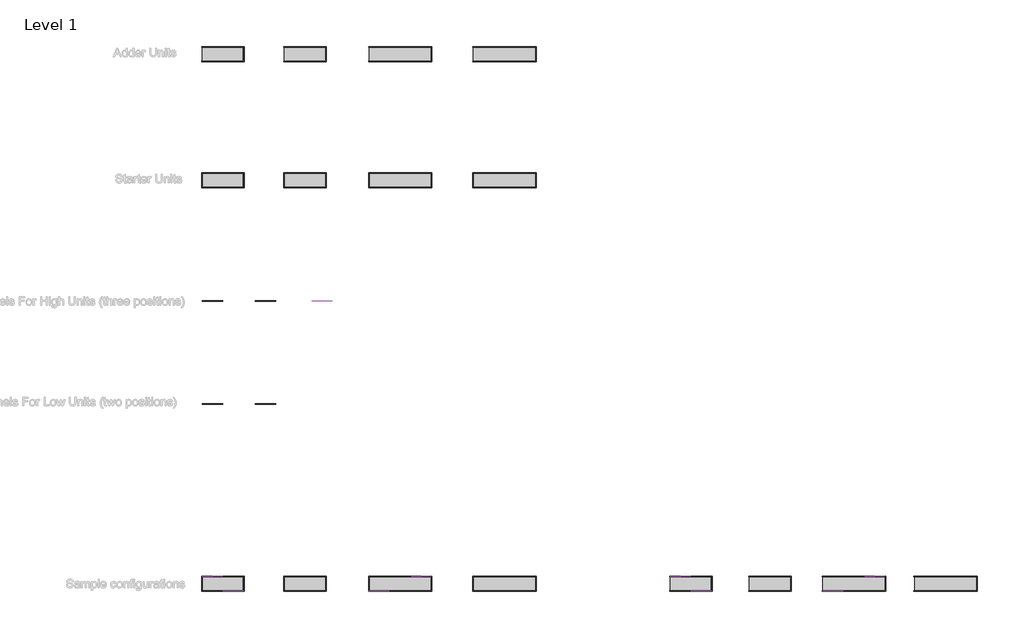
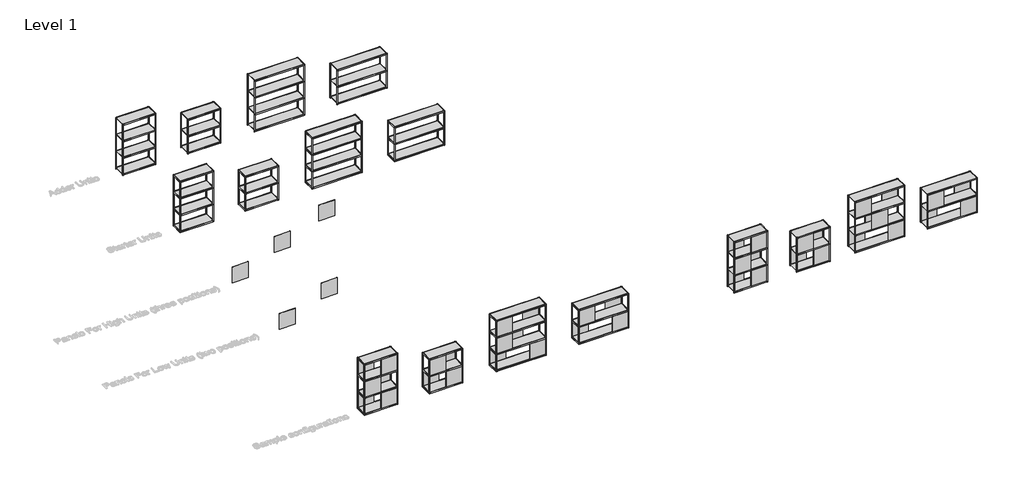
# One storey, part 1 of 5: 61 furniture elements.
"""IFC4 building model written with IfcOpenShell, lengths in millimetres."""

from ifc_helpers import new_model, si_unit, origin, place, context, project, spatial, transform, mapped, element, save
from components import furniture_18f51ebe, furniture_b5f793eb, furniture_124d8ea0, furniture_46b29162, loft_wall_shift_panel_high_panel_bottom_7a51d23b, loft_wall_shift_panel_high_panel_middle_ab29b295, loft_wall_shift_panel_high_panel_top_c6bffc80, loft_wall_shift_panel_low_panel_bottom_8d38475a, loft_wall_shift_panel_low_panel_top_9cc669cb, loft_wall_shift_shelving_starter_shift_4_fh_6d0d693a, loft_wall_shift_shelving_starter_shift_4_lh_eeeddb5a, loft_wall_shift_shelving_starter_shift_6_fh_b3093a74, loft_wall_shift_shelving_starter_shift_6_lh_b1b69f6e

model = new_model("IFC4")

# Units and contexts
model_context = context("Model", 3, world=origin())
ifc_project = project(units=[si_unit("LENGTHUNIT", "METRE", prefix="MILLI")], contexts=[model_context])

# Site, building, storey
site = spatial("IfcSite", under=ifc_project)
building = spatial("IfcBuilding", under=site)
storey = spatial("IfcBuildingStorey", under=building, Name="Level 1", Elevation=0.0)

# Furniture
placement = place(None, origin())
furniture_shape = furniture_18f51ebe(model_context)
element("IfcFurniture", 1, ObjectType="Loft_Wall-Shift-Shelving-Adder : SHIFT-4A-LH", at=placement, inside=storey, context=model_context, shape_type="MappedRepresentation", body=[
    mapped(furniture_shape, transform((2613.5631912, -1800.076662, 0.0), x_axis=(1.0, 0.0, 0.0), y_axis=(0.0, 1.0, 0.0), z_axis=(0.0, 0.0, 1.0))),
])
element("IfcFurniture", 2, ObjectType="Loft_Wall-Shift-Shelving-Adder : SHIFT-4A-LH", at=placement, inside=storey, context=model_context, shape_type="MappedRepresentation", body=[
    mapped(furniture_shape, transform((-10777.6518982, 13453.7977648, 0.0), x_axis=(1.0, 0.0, 0.0), y_axis=(0.0, 1.0, 0.0), z_axis=(0.0, 0.0, 1.0))),
])
furniture_2_shape = furniture_b5f793eb(model_context)
element("IfcFurniture", 3, ObjectType="Loft_Wall-Shift-Shelving-Adder : SHIFT-4A-FH", at=placement, inside=storey, context=model_context, shape_type="MappedRepresentation", body=[
    mapped(furniture_2_shape, transform((336.145659, -1800.076662, 0.0), x_axis=(1.0, 0.0, 0.0), y_axis=(0.0, 1.0, 0.0), z_axis=(0.0, 0.0, 1.0))),
])
element("IfcFurniture", 4, ObjectType="Loft_Wall-Shift-Shelving-Adder : SHIFT-4A-FH", at=placement, inside=storey, context=model_context, shape_type="MappedRepresentation", body=[
    mapped(furniture_2_shape, transform((-13146.1661317, 13453.7977648, 0.0), x_axis=(1.0, 0.0, 0.0), y_axis=(0.0, 1.0, 0.0), z_axis=(0.0, 0.0, 1.0))),
])
furniture_3_shape = furniture_124d8ea0(model_context)
element("IfcFurniture", 5, ObjectType="Loft_Wall-Shift-Shelving-Adder : SHIFT-6A-FH", at=placement, inside=storey, context=model_context, shape_type="MappedRepresentation", body=[
    mapped(furniture_3_shape, transform((4731.5614962, -1800.076662, 0.0), x_axis=(1.0, 0.0, 0.0), y_axis=(0.0, 1.0, 0.0), z_axis=(0.0, 0.0, 1.0))),
])
element("IfcFurniture", 6, ObjectType="Loft_Wall-Shift-Shelving-Adder : SHIFT-6A-FH", at=placement, inside=storey, context=model_context, shape_type="MappedRepresentation", body=[
    mapped(furniture_3_shape, transform((-8340.8151387, 13453.7977648, 0.0), x_axis=(1.0, 0.0, 0.0), y_axis=(0.0, 1.0, 0.0), z_axis=(0.0, 0.0, 1.0))),
])
furniture_4_shape = furniture_46b29162(model_context)
element("IfcFurniture", 7, ObjectType="Loft_Wall-Shift-Shelving-Adder : SHIFT-6A-LH", at=placement, inside=storey, context=model_context, shape_type="MappedRepresentation", body=[
    mapped(furniture_4_shape, transform((7373.3658336, -1800.076662, 0.0), x_axis=(1.0, 0.0, 0.0), y_axis=(0.0, 1.0, 0.0), z_axis=(0.0, 0.0, 1.0))),
])
element("IfcFurniture", 8, ObjectType="Loft_Wall-Shift-Shelving-Adder : SHIFT-6A-LH", at=placement, inside=storey, context=model_context, shape_type="MappedRepresentation", body=[
    mapped(furniture_4_shape, transform((-5334.6239962, 13453.7977648, 0.0), x_axis=(1.0, 0.0, 0.0), y_axis=(0.0, 1.0, 0.0), z_axis=(0.0, 0.0, 1.0))),
])
loft_wall_shift_panel_high_panel_bottom_shape = loft_wall_shift_panel_high_panel_bottom_7a51d23b(model_context)
element("IfcFurniture", 9, ObjectType="Loft_Wall-Shift-Panel_High : Panel Bottom", at=placement, inside=storey, context=model_context, shape_type="MappedRepresentation", body=[
    mapped(loft_wall_shift_panel_high_panel_bottom_shape, transform((-13443.8223817, 6341.4467411, 0.0), x_axis=(1.0, 0.0, 0.0), y_axis=(0.0, 1.0, 0.0), z_axis=(0.0, 0.0, 1.0))),
])
element("IfcFurniture", 10, ObjectType="Loft_Wall-Shift-Panel_High : Panel Bottom", at=placement, inside=storey, context=model_context, shape_type="MappedRepresentation", body=[
    mapped(loft_wall_shift_panel_high_panel_bottom_shape, transform((-13443.8223817, -1588.542287, 0.0), x_axis=(1.0, 0.0, 0.0), y_axis=(0.0, 1.0, 0.0), z_axis=(0.0, 0.0, 1.0))),
])
element("IfcFurniture", 11, ObjectType="Loft_Wall-Shift-Panel_High : Panel Bottom", at=placement, inside=storey, context=model_context, shape_type="MappedRepresentation", body=[
    mapped(loft_wall_shift_panel_high_panel_bottom_shape, transform((-12848.5098817, -2011.452287, 0.0), x_axis=(1.0, 0.0, 0.0), y_axis=(0.0, 1.0, 0.0), z_axis=(0.0, 0.0, 1.0))),
])
element("IfcFurniture", 12, ObjectType="Loft_Wall-Shift-Panel_High : Panel Bottom", at=placement, inside=storey, context=model_context, shape_type="MappedRepresentation", body=[
    mapped(loft_wall_shift_panel_high_panel_bottom_shape, transform((-8638.4713887, -1588.542287, 0.0), x_axis=(1.0, 0.0, 0.0), y_axis=(0.0, 1.0, 0.0), z_axis=(0.0, 0.0, 1.0))),
])
element("IfcFurniture", 13, ObjectType="Loft_Wall-Shift-Panel_High : Panel Bottom", at=placement, inside=storey, context=model_context, shape_type="MappedRepresentation", body=[
    mapped(loft_wall_shift_panel_high_panel_bottom_shape, transform((-7433.5588887, -2011.452287, 0.0), x_axis=(1.0, 0.0, 0.0), y_axis=(0.0, 1.0, 0.0), z_axis=(0.0, 0.0, 1.0))),
])
element("IfcFurniture", 14, ObjectType="Loft_Wall-Shift-Panel_High : Panel Bottom", at=placement, inside=storey, context=model_context, shape_type="MappedRepresentation", body=[
    mapped(loft_wall_shift_panel_high_panel_bottom_shape, transform((38.489409, -1588.542287, 0.0), x_axis=(1.0, 0.0, 0.0), y_axis=(0.0, 1.0, 0.0), z_axis=(0.0, 0.0, 1.0))),
])
element("IfcFurniture", 15, ObjectType="Loft_Wall-Shift-Panel_High : Panel Bottom", at=placement, inside=storey, context=model_context, shape_type="MappedRepresentation", body=[
    mapped(loft_wall_shift_panel_high_panel_bottom_shape, transform((633.801909, -2011.452287, 0.0), x_axis=(1.0, 0.0, 0.0), y_axis=(0.0, 1.0, 0.0), z_axis=(0.0, 0.0, 1.0))),
])
element("IfcFurniture", 16, ObjectType="Loft_Wall-Shift-Panel_High : Panel Bottom", at=placement, inside=storey, context=model_context, shape_type="MappedRepresentation", body=[
    mapped(loft_wall_shift_panel_high_panel_bottom_shape, transform((4433.9052462, -1588.542287, 0.0), x_axis=(1.0, 0.0, 0.0), y_axis=(0.0, 1.0, 0.0), z_axis=(0.0, 0.0, 1.0))),
])
element("IfcFurniture", 17, ObjectType="Loft_Wall-Shift-Panel_High : Panel Bottom", at=placement, inside=storey, context=model_context, shape_type="MappedRepresentation", body=[
    mapped(loft_wall_shift_panel_high_panel_bottom_shape, transform((5638.8177462, -2011.452287, 0.0), x_axis=(1.0, 0.0, 0.0), y_axis=(0.0, 1.0, 0.0), z_axis=(0.0, 0.0, 1.0))),
])
loft_wall_shift_panel_high_panel_middle_shape = loft_wall_shift_panel_high_panel_middle_ab29b295(model_context)
element("IfcFurniture", 18, ObjectType="Loft_Wall-Shift-Panel_High : Panel Middle", at=placement, inside=storey, context=model_context, shape_type="MappedRepresentation", body=[
    mapped(loft_wall_shift_panel_high_panel_middle_shape, transform((-11917.5782012, 6341.4467411, 0.0), x_axis=(1.0, 0.0, 0.0), y_axis=(0.0, 1.0, 0.0), z_axis=(0.0, 0.0, 1.0))),
])
element("IfcFurniture", 19, ObjectType="Loft_Wall-Shift-Panel_High : Panel Middle", at=placement, inside=storey, context=model_context, shape_type="MappedRepresentation", body=[
    mapped(loft_wall_shift_panel_high_panel_middle_shape, transform((-13443.8223817, -2011.452287, 0.0), x_axis=(1.0, 0.0, 0.0), y_axis=(0.0, 1.0, 0.0), z_axis=(0.0, 0.0, 1.0))),
])
element("IfcFurniture", 20, ObjectType="Loft_Wall-Shift-Panel_High : Panel Middle", at=placement, inside=storey, context=model_context, shape_type="MappedRepresentation", body=[
    mapped(loft_wall_shift_panel_high_panel_middle_shape, transform((-12848.5098817, -1588.542287, 0.0), x_axis=(1.0, 0.0, 0.0), y_axis=(0.0, 1.0, 0.0), z_axis=(0.0, 0.0, 1.0))),
])
element("IfcFurniture", 21, ObjectType="Loft_Wall-Shift-Panel_High : Panel Middle", at=placement, inside=storey, context=model_context, shape_type="MappedRepresentation", body=[
    mapped(loft_wall_shift_panel_high_panel_middle_shape, transform((-8014.5838887, -1588.542287, 0.0), x_axis=(1.0, 0.0, 0.0), y_axis=(0.0, 1.0, 0.0), z_axis=(0.0, 0.0, 1.0))),
])
element("IfcFurniture", 22, ObjectType="Loft_Wall-Shift-Panel_High : Panel Middle", at=placement, inside=storey, context=model_context, shape_type="MappedRepresentation", body=[
    mapped(loft_wall_shift_panel_high_panel_middle_shape, transform((-8638.4713887, -2011.452287, 0.0), x_axis=(1.0, 0.0, 0.0), y_axis=(0.0, 1.0, 0.0), z_axis=(0.0, 0.0, 1.0))),
])
element("IfcFurniture", 23, ObjectType="Loft_Wall-Shift-Panel_High : Panel Middle", at=placement, inside=storey, context=model_context, shape_type="MappedRepresentation", body=[
    mapped(loft_wall_shift_panel_high_panel_middle_shape, transform((38.489409, -2011.452287, 0.0), x_axis=(1.0, 0.0, 0.0), y_axis=(0.0, 1.0, 0.0), z_axis=(0.0, 0.0, 1.0))),
])
element("IfcFurniture", 24, ObjectType="Loft_Wall-Shift-Panel_High : Panel Middle", at=placement, inside=storey, context=model_context, shape_type="MappedRepresentation", body=[
    mapped(loft_wall_shift_panel_high_panel_middle_shape, transform((633.801909, -1588.542287, 0.0), x_axis=(1.0, 0.0, 0.0), y_axis=(0.0, 1.0, 0.0), z_axis=(0.0, 0.0, 1.0))),
])
element("IfcFurniture", 25, ObjectType="Loft_Wall-Shift-Panel_High : Panel Middle", at=placement, inside=storey, context=model_context, shape_type="MappedRepresentation", body=[
    mapped(loft_wall_shift_panel_high_panel_middle_shape, transform((5031.3228958, -1588.542287, 0.0), x_axis=(1.0, 0.0, 0.0), y_axis=(0.0, 1.0, 0.0), z_axis=(0.0, 0.0, 1.0))),
])
element("IfcFurniture", 26, ObjectType="Loft_Wall-Shift-Panel_High : Panel Middle", at=placement, inside=storey, context=model_context, shape_type="MappedRepresentation", body=[
    mapped(loft_wall_shift_panel_high_panel_middle_shape, transform((5034.2523654, -2011.452287, 0.0), x_axis=(1.0, 0.0, 0.0), y_axis=(0.0, 1.0, 0.0), z_axis=(0.0, 0.0, 1.0))),
])
loft_wall_shift_panel_high_panel_top_shape = loft_wall_shift_panel_high_panel_top_c6bffc80(model_context)
element("IfcFurniture", 27, ObjectType="Loft_Wall-Shift-Panel_High : Panel Top", at=placement, inside=storey, context=model_context, shape_type="MappedRepresentation", body=[
    mapped(loft_wall_shift_panel_high_panel_top_shape, transform((-10296.2615047, 6341.4467411, 0.0), x_axis=(1.0, 0.0, 0.0), y_axis=(0.0, 1.0, 0.0), z_axis=(0.0, 0.0, 1.0))),
])
element("IfcFurniture", 28, ObjectType="Loft_Wall-Shift-Panel_High : Panel Top", at=placement, inside=storey, context=model_context, shape_type="MappedRepresentation", body=[
    mapped(loft_wall_shift_panel_high_panel_top_shape, transform((-12848.5098817, -2011.452287, 0.0), x_axis=(1.0, 0.0, 0.0), y_axis=(0.0, 1.0, 0.0), z_axis=(0.0, 0.0, 1.0))),
])
element("IfcFurniture", 29, ObjectType="Loft_Wall-Shift-Panel_High : Panel Top", at=placement, inside=storey, context=model_context, shape_type="MappedRepresentation", body=[
    mapped(loft_wall_shift_panel_high_panel_top_shape, transform((-13443.8223817, -1588.542287, 0.0), x_axis=(1.0, 0.0, 0.0), y_axis=(0.0, 1.0, 0.0), z_axis=(0.0, 0.0, 1.0))),
])
element("IfcFurniture", 30, ObjectType="Loft_Wall-Shift-Panel_High : Panel Top", at=placement, inside=storey, context=model_context, shape_type="MappedRepresentation", body=[
    mapped(loft_wall_shift_panel_high_panel_top_shape, transform((-7433.5588887, -1588.542287, 0.0), x_axis=(1.0, 0.0, 0.0), y_axis=(0.0, 1.0, 0.0), z_axis=(0.0, 0.0, 1.0))),
])
element("IfcFurniture", 31, ObjectType="Loft_Wall-Shift-Panel_High : Panel Top", at=placement, inside=storey, context=model_context, shape_type="MappedRepresentation", body=[
    mapped(loft_wall_shift_panel_high_panel_top_shape, transform((-8638.4713887, -2011.452287, 0.0), x_axis=(1.0, 0.0, 0.0), y_axis=(0.0, 1.0, 0.0), z_axis=(0.0, 0.0, 1.0))),
])
element("IfcFurniture", 32, ObjectType="Loft_Wall-Shift-Panel_High : Panel Top", at=placement, inside=storey, context=model_context, shape_type="MappedRepresentation", body=[
    mapped(loft_wall_shift_panel_high_panel_top_shape, transform((633.801909, -2011.452287, 0.0), x_axis=(1.0, 0.0, 0.0), y_axis=(0.0, 1.0, 0.0), z_axis=(0.0, 0.0, 1.0))),
])
element("IfcFurniture", 33, ObjectType="Loft_Wall-Shift-Panel_High : Panel Top", at=placement, inside=storey, context=model_context, shape_type="MappedRepresentation", body=[
    mapped(loft_wall_shift_panel_high_panel_top_shape, transform((38.489409, -1588.542287, 0.0), x_axis=(1.0, 0.0, 0.0), y_axis=(0.0, 1.0, 0.0), z_axis=(0.0, 0.0, 1.0))),
])
element("IfcFurniture", 34, ObjectType="Loft_Wall-Shift-Panel_High : Panel Top", at=placement, inside=storey, context=model_context, shape_type="MappedRepresentation", body=[
    mapped(loft_wall_shift_panel_high_panel_top_shape, transform((5638.8177462, -1588.542287, 0.0), x_axis=(1.0, 0.0, 0.0), y_axis=(0.0, 1.0, 0.0), z_axis=(0.0, 0.0, 1.0))),
])
element("IfcFurniture", 35, ObjectType="Loft_Wall-Shift-Panel_High : Panel Top", at=placement, inside=storey, context=model_context, shape_type="MappedRepresentation", body=[
    mapped(loft_wall_shift_panel_high_panel_top_shape, transform((4433.9052462, -2011.452287, 0.0), x_axis=(1.0, 0.0, 0.0), y_axis=(0.0, 1.0, 0.0), z_axis=(0.0, 0.0, 1.0))),
])
loft_wall_shift_panel_low_panel_bottom_shape = loft_wall_shift_panel_low_panel_bottom_8d38475a(model_context)
element("IfcFurniture", 36, ObjectType="Loft_Wall-Shift-Panel_Low : Panel Bottom", at=placement, inside=storey, context=model_context, shape_type="MappedRepresentation", body=[
    mapped(loft_wall_shift_panel_low_panel_bottom_shape, transform((-13443.8223817, 3378.3203464, 0.0), x_axis=(1.0, 0.0, 0.0), y_axis=(0.0, 1.0, 0.0), z_axis=(0.0, 0.0, 1.0))),
])
element("IfcFurniture", 37, ObjectType="Loft_Wall-Shift-Panel_Low : Panel Bottom", at=placement, inside=storey, context=model_context, shape_type="MappedRepresentation", body=[
    mapped(loft_wall_shift_panel_low_panel_bottom_shape, transform((-11075.3081482, -1588.542287, 0.0), x_axis=(1.0, 0.0, 0.0), y_axis=(0.0, 1.0, 0.0), z_axis=(0.0, 0.0, 1.0))),
])
element("IfcFurniture", 38, ObjectType="Loft_Wall-Shift-Panel_Low : Panel Bottom", at=placement, inside=storey, context=model_context, shape_type="MappedRepresentation", body=[
    mapped(loft_wall_shift_panel_low_panel_bottom_shape, transform((-10479.9956482, -2011.452287, 0.0), x_axis=(1.0, 0.0, 0.0), y_axis=(0.0, 1.0, 0.0), z_axis=(0.0, 0.0, 1.0))),
])
element("IfcFurniture", 39, ObjectType="Loft_Wall-Shift-Panel_Low : Panel Bottom", at=placement, inside=storey, context=model_context, shape_type="MappedRepresentation", body=[
    mapped(loft_wall_shift_panel_low_panel_bottom_shape, transform((2315.9069412, -1588.542287, 0.0), x_axis=(1.0, 0.0, 0.0), y_axis=(0.0, 1.0, 0.0), z_axis=(0.0, 0.0, 1.0))),
])
element("IfcFurniture", 40, ObjectType="Loft_Wall-Shift-Panel_Low : Panel Bottom", at=placement, inside=storey, context=model_context, shape_type="MappedRepresentation", body=[
    mapped(loft_wall_shift_panel_low_panel_bottom_shape, transform((2911.2194412, -2011.452287, 0.0), x_axis=(1.0, 0.0, 0.0), y_axis=(0.0, 1.0, 0.0), z_axis=(0.0, 0.0, 1.0))),
])
element("IfcFurniture", 41, ObjectType="Loft_Wall-Shift-Panel_Low : Panel Bottom", at=placement, inside=storey, context=model_context, shape_type="MappedRepresentation", body=[
    mapped(loft_wall_shift_panel_low_panel_bottom_shape, transform((7075.7095836, -1588.542287, 0.0), x_axis=(1.0, 0.0, 0.0), y_axis=(0.0, 1.0, 0.0), z_axis=(0.0, 0.0, 1.0))),
])
element("IfcFurniture", 42, ObjectType="Loft_Wall-Shift-Panel_Low : Panel Bottom", at=placement, inside=storey, context=model_context, shape_type="MappedRepresentation", body=[
    mapped(loft_wall_shift_panel_low_panel_bottom_shape, transform((8280.6220836, -2011.452287, 0.0), x_axis=(1.0, 0.0, 0.0), y_axis=(0.0, 1.0, 0.0), z_axis=(0.0, 0.0, 1.0))),
])
element("IfcFurniture", 43, ObjectType="Loft_Wall-Shift-Panel_Low : Panel Bottom", at=placement, inside=storey, context=model_context, shape_type="MappedRepresentation", body=[
    mapped(loft_wall_shift_panel_low_panel_bottom_shape, transform((-5632.2802462, -1588.542287, 0.0), x_axis=(1.0, 0.0, 0.0), y_axis=(0.0, 1.0, 0.0), z_axis=(0.0, 0.0, 1.0))),
])
element("IfcFurniture", 44, ObjectType="Loft_Wall-Shift-Panel_Low : Panel Bottom", at=placement, inside=storey, context=model_context, shape_type="MappedRepresentation", body=[
    mapped(loft_wall_shift_panel_low_panel_bottom_shape, transform((-4427.3677462, -2011.452287, 0.0), x_axis=(1.0, 0.0, 0.0), y_axis=(0.0, 1.0, 0.0), z_axis=(0.0, 0.0, 1.0))),
])
loft_wall_shift_panel_low_panel_top_shape = loft_wall_shift_panel_low_panel_top_9cc669cb(model_context)
element("IfcFurniture", 45, ObjectType="Loft_Wall-Shift-Panel_Low : Panel Top", at=placement, inside=storey, context=model_context, shape_type="MappedRepresentation", body=[
    mapped(loft_wall_shift_panel_low_panel_top_shape, transform((-11917.5782012, 3378.3203464, 0.0), x_axis=(1.0, 0.0, 0.0), y_axis=(0.0, 1.0, 0.0), z_axis=(0.0, 0.0, 1.0))),
])
element("IfcFurniture", 46, ObjectType="Loft_Wall-Shift-Panel_Low : Panel Top", at=placement, inside=storey, context=model_context, shape_type="MappedRepresentation", body=[
    mapped(loft_wall_shift_panel_low_panel_top_shape, transform((-10479.9956482, -1588.542287, 0.0), x_axis=(1.0, 0.0, 0.0), y_axis=(0.0, 1.0, 0.0), z_axis=(0.0, 0.0, 1.0))),
])
element("IfcFurniture", 47, ObjectType="Loft_Wall-Shift-Panel_Low : Panel Top", at=placement, inside=storey, context=model_context, shape_type="MappedRepresentation", body=[
    mapped(loft_wall_shift_panel_low_panel_top_shape, transform((-11075.3081482, -2011.452287, 0.0), x_axis=(1.0, 0.0, 0.0), y_axis=(0.0, 1.0, 0.0), z_axis=(0.0, 0.0, 1.0))),
])
element("IfcFurniture", 48, ObjectType="Loft_Wall-Shift-Panel_Low : Panel Top", at=placement, inside=storey, context=model_context, shape_type="MappedRepresentation", body=[
    mapped(loft_wall_shift_panel_low_panel_top_shape, transform((2911.2194412, -1588.542287, 0.0), x_axis=(1.0, 0.0, 0.0), y_axis=(0.0, 1.0, 0.0), z_axis=(0.0, 0.0, 1.0))),
])
element("IfcFurniture", 49, ObjectType="Loft_Wall-Shift-Panel_Low : Panel Top", at=placement, inside=storey, context=model_context, shape_type="MappedRepresentation", body=[
    mapped(loft_wall_shift_panel_low_panel_top_shape, transform((2315.9069412, -2011.452287, 0.0), x_axis=(1.0, 0.0, 0.0), y_axis=(0.0, 1.0, 0.0), z_axis=(0.0, 0.0, 1.0))),
])
element("IfcFurniture", 50, ObjectType="Loft_Wall-Shift-Panel_Low : Panel Top", at=placement, inside=storey, context=model_context, shape_type="MappedRepresentation", body=[
    mapped(loft_wall_shift_panel_low_panel_top_shape, transform((7075.7095836, -2011.452287, 0.0), x_axis=(1.0, 0.0, 0.0), y_axis=(0.0, 1.0, 0.0), z_axis=(0.0, 0.0, 1.0))),
])
element("IfcFurniture", 51, ObjectType="Loft_Wall-Shift-Panel_Low : Panel Top", at=placement, inside=storey, context=model_context, shape_type="MappedRepresentation", body=[
    mapped(loft_wall_shift_panel_low_panel_top_shape, transform((8280.6220836, -1588.542287, 0.0), x_axis=(1.0, 0.0, 0.0), y_axis=(0.0, 1.0, 0.0), z_axis=(0.0, 0.0, 1.0))),
])
element("IfcFurniture", 52, ObjectType="Loft_Wall-Shift-Panel_Low : Panel Top", at=placement, inside=storey, context=model_context, shape_type="MappedRepresentation", body=[
    mapped(loft_wall_shift_panel_low_panel_top_shape, transform((-4427.3677462, -1588.542287, 0.0), x_axis=(1.0, 0.0, 0.0), y_axis=(0.0, 1.0, 0.0), z_axis=(0.0, 0.0, 1.0))),
])
element("IfcFurniture", 53, ObjectType="Loft_Wall-Shift-Panel_Low : Panel Top", at=placement, inside=storey, context=model_context, shape_type="MappedRepresentation", body=[
    mapped(loft_wall_shift_panel_low_panel_top_shape, transform((-5632.2802462, -2011.452287, 0.0), x_axis=(1.0, 0.0, 0.0), y_axis=(0.0, 1.0, 0.0), z_axis=(0.0, 0.0, 1.0))),
])
loft_wall_shift_shelving_starter_shift_4_fh_shape = loft_wall_shift_shelving_starter_shift_4_fh_6d0d693a(model_context)
element("IfcFurniture", 54, ObjectType="Loft_Wall-Shift-Shelving-Starter : SHIFT-4-FH", at=placement, inside=storey, context=model_context, shape_type="MappedRepresentation", body=[
    mapped(loft_wall_shift_shelving_starter_shift_4_fh_shape, transform((-13146.1661317, -1800.076662, 0.0), x_axis=(1.0, 0.0, 0.0), y_axis=(0.0, 1.0, 0.0), z_axis=(0.0, 0.0, 1.0))),
])
element("IfcFurniture", 55, ObjectType="Loft_Wall-Shift-Shelving-Starter : SHIFT-4-FH", at=placement, inside=storey, context=model_context, shape_type="MappedRepresentation", body=[
    mapped(loft_wall_shift_shelving_starter_shift_4_fh_shape, transform((-13146.1661317, 9819.5454526, 0.0), x_axis=(1.0, 0.0, 0.0), y_axis=(0.0, 1.0, 0.0), z_axis=(0.0, 0.0, 1.0))),
])
loft_wall_shift_shelving_starter_shift_4_lh_shape = loft_wall_shift_shelving_starter_shift_4_lh_eeeddb5a(model_context)
element("IfcFurniture", 56, ObjectType="Loft_Wall-Shift-Shelving-Starter : SHIFT-4-LH", at=placement, inside=storey, context=model_context, shape_type="MappedRepresentation", body=[
    mapped(loft_wall_shift_shelving_starter_shift_4_lh_shape, transform((-10777.6518982, -1800.076662, 0.0), x_axis=(1.0, 0.0, 0.0), y_axis=(0.0, 1.0, 0.0), z_axis=(0.0, 0.0, 1.0))),
])
element("IfcFurniture", 57, ObjectType="Loft_Wall-Shift-Shelving-Starter : SHIFT-4-LH", at=placement, inside=storey, context=model_context, shape_type="MappedRepresentation", body=[
    mapped(loft_wall_shift_shelving_starter_shift_4_lh_shape, transform((-10777.6518982, 9819.5454526, 0.0), x_axis=(1.0, 0.0, 0.0), y_axis=(0.0, 1.0, 0.0), z_axis=(0.0, 0.0, 1.0))),
])
loft_wall_shift_shelving_starter_shift_6_fh_shape = loft_wall_shift_shelving_starter_shift_6_fh_b3093a74(model_context)
element("IfcFurniture", 58, ObjectType="Loft_Wall-Shift-Shelving-Starter : SHIFT-6-FH", at=placement, inside=storey, context=model_context, shape_type="MappedRepresentation", body=[
    mapped(loft_wall_shift_shelving_starter_shift_6_fh_shape, transform((-8340.8151387, -1800.076662, 0.0), x_axis=(1.0, 0.0, 0.0), y_axis=(0.0, 1.0, 0.0), z_axis=(0.0, 0.0, 1.0))),
])
element("IfcFurniture", 59, ObjectType="Loft_Wall-Shift-Shelving-Starter : SHIFT-6-FH", at=placement, inside=storey, context=model_context, shape_type="MappedRepresentation", body=[
    mapped(loft_wall_shift_shelving_starter_shift_6_fh_shape, transform((-8340.8151387, 9819.5454526, 0.0), x_axis=(1.0, 0.0, 0.0), y_axis=(0.0, 1.0, 0.0), z_axis=(0.0, 0.0, 1.0))),
])
loft_wall_shift_shelving_starter_shift_6_lh_shape = loft_wall_shift_shelving_starter_shift_6_lh_b1b69f6e(model_context)
element("IfcFurniture", 60, ObjectType="Loft_Wall-Shift-Shelving-Starter : SHIFT-6-LH", at=placement, inside=storey, context=model_context, shape_type="MappedRepresentation", body=[
    mapped(loft_wall_shift_shelving_starter_shift_6_lh_shape, transform((-5334.6239962, -1800.076662, 0.0), x_axis=(1.0, 0.0, 0.0), y_axis=(0.0, 1.0, 0.0), z_axis=(0.0, 0.0, 1.0))),
])
element("IfcFurniture", 61, ObjectType="Loft_Wall-Shift-Shelving-Starter : SHIFT-6-LH", at=placement, inside=storey, context=model_context, shape_type="MappedRepresentation", body=[
    mapped(loft_wall_shift_shelving_starter_shift_6_lh_shape, transform((-5334.6239962, 9819.5454526, 0.0), x_axis=(1.0, 0.0, 0.0), y_axis=(0.0, 1.0, 0.0), z_axis=(0.0, 0.0, 1.0))),
])

save(model, "model.ifc")
